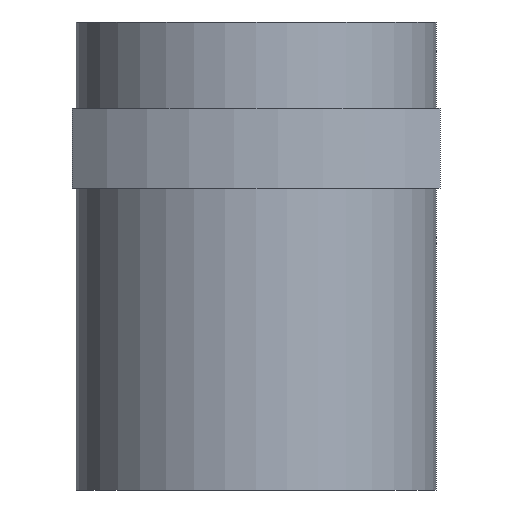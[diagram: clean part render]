
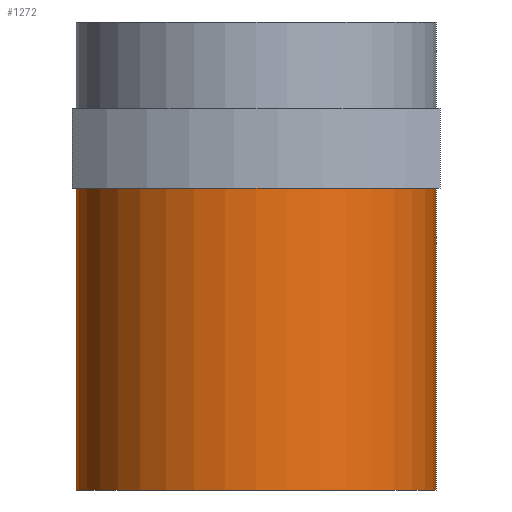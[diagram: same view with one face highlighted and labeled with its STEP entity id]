
A CAD part, front view. The second image highlights one B-rep face of the part: STEP entity #1272.
In plain terms, the highlighted cylindrical face has radius 45 mm (diameter 90 mm), a full revolution.
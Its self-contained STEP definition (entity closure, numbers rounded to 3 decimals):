
#21 = EDGE_CURVE('',#22,#24,#26,.T.);
#22 = VERTEX_POINT('',#23);
#23 = CARTESIAN_POINT('',(0.,-45.,-117.));
#24 = VERTEX_POINT('',#25);
#25 = CARTESIAN_POINT('',(45.,0.,-117.));
#26 = SURFACE_CURVE('',#27,(#32,#48),.PCURVE_S1.);
#27 = CIRCLE('',#28,45.);
#28 = AXIS2_PLACEMENT_3D('',#29,#30,#31);
#29 = CARTESIAN_POINT('',(0.,0.,-117.));
#30 = DIRECTION('',(0.,0.,1.));
#31 = DIRECTION('',(-1.,0.,0.));
#32 = PCURVE('',#33,#38);
#33 = PLANE('',#34);
#34 = AXIS2_PLACEMENT_3D('',#35,#36,#37);
#35 = CARTESIAN_POINT('',(0.,0.,-117.));
#36 = DIRECTION('',(0.,0.,-1.));
#37 = DIRECTION('',(-1.,0.,0.));
#38 = DEFINITIONAL_REPRESENTATION('',(#39),#47);
#39 = ( BOUNDED_CURVE() B_SPLINE_CURVE(2,(#40,#41,#42,#43,#44,#45,#46),
.UNSPECIFIED.,.T.,.F.) B_SPLINE_CURVE_WITH_KNOTS((1,2,2,2,2,1),(
    -2.094,0.,2.094,4.189,6.283,
8.378),.UNSPECIFIED.) CURVE() GEOMETRIC_REPRESENTATION_ITEM() 
RATIONAL_B_SPLINE_CURVE((1.,0.5,1.,0.5,1.,0.5,1.)) REPRESENTATION_ITEM(
  '') );
#40 = CARTESIAN_POINT('',(45.,0.));
#41 = CARTESIAN_POINT('',(45.,-77.942));
#42 = CARTESIAN_POINT('',(-22.5,-38.971));
#43 = CARTESIAN_POINT('',(-90.,0.));
#44 = CARTESIAN_POINT('',(-22.5,38.971));
#45 = CARTESIAN_POINT('',(45.,77.942));
#46 = CARTESIAN_POINT('',(45.,0.));
#47 = ( GEOMETRIC_REPRESENTATION_CONTEXT(2) 
PARAMETRIC_REPRESENTATION_CONTEXT() REPRESENTATION_CONTEXT('2D SPACE',''
  ) );
#48 = PCURVE('',#49,#54);
#49 = CYLINDRICAL_SURFACE('',#50,45.);
#50 = AXIS2_PLACEMENT_3D('',#51,#52,#53);
#51 = CARTESIAN_POINT('',(0.,0.,0.));
#52 = DIRECTION('',(0.,0.,-1.));
#53 = DIRECTION('',(-1.,0.,0.));
#54 = DEFINITIONAL_REPRESENTATION('',(#55),#59);
#55 = LINE('',#56,#57);
#56 = CARTESIAN_POINT('',(0.,117.));
#57 = VECTOR('',#58,1.);
#58 = DIRECTION('',(-1.,0.));
#59 = ( GEOMETRIC_REPRESENTATION_CONTEXT(2) 
PARAMETRIC_REPRESENTATION_CONTEXT() REPRESENTATION_CONTEXT('2D SPACE',''
  ) );
#61 = EDGE_CURVE('',#24,#22,#62,.T.);
#62 = SURFACE_CURVE('',#63,(#68,#79),.PCURVE_S1.);
#63 = CIRCLE('',#64,45.);
#64 = AXIS2_PLACEMENT_3D('',#65,#66,#67);
#65 = CARTESIAN_POINT('',(0.,0.,-117.));
#66 = DIRECTION('',(0.,0.,1.));
#67 = DIRECTION('',(-1.,0.,0.));
#68 = PCURVE('',#33,#69);
#69 = DEFINITIONAL_REPRESENTATION('',(#70),#78);
#70 = ( BOUNDED_CURVE() B_SPLINE_CURVE(2,(#71,#72,#73,#74,#75,#76,#77),
.UNSPECIFIED.,.T.,.F.) B_SPLINE_CURVE_WITH_KNOTS((1,2,2,2,2,1),(
    -2.094,0.,2.094,4.189,6.283,
8.378),.UNSPECIFIED.) CURVE() GEOMETRIC_REPRESENTATION_ITEM() 
RATIONAL_B_SPLINE_CURVE((1.,0.5,1.,0.5,1.,0.5,1.)) REPRESENTATION_ITEM(
  '') );
#71 = CARTESIAN_POINT('',(45.,0.));
#72 = CARTESIAN_POINT('',(45.,-77.942));
#73 = CARTESIAN_POINT('',(-22.5,-38.971));
#74 = CARTESIAN_POINT('',(-90.,0.));
#75 = CARTESIAN_POINT('',(-22.5,38.971));
#76 = CARTESIAN_POINT('',(45.,77.942));
#77 = CARTESIAN_POINT('',(45.,0.));
#78 = ( GEOMETRIC_REPRESENTATION_CONTEXT(2) 
PARAMETRIC_REPRESENTATION_CONTEXT() REPRESENTATION_CONTEXT('2D SPACE',''
  ) );
#79 = PCURVE('',#49,#80);
#80 = DEFINITIONAL_REPRESENTATION('',(#81),#85);
#81 = LINE('',#82,#83);
#82 = CARTESIAN_POINT('',(6.283,117.));
#83 = VECTOR('',#84,1.);
#84 = DIRECTION('',(-1.,0.));
#85 = ( GEOMETRIC_REPRESENTATION_CONTEXT(2) 
PARAMETRIC_REPRESENTATION_CONTEXT() REPRESENTATION_CONTEXT('2D SPACE',''
  ) );
#869 = PLANE('',#870);
#870 = AXIS2_PLACEMENT_3D('',#871,#872,#873);
#871 = CARTESIAN_POINT('',(0.,0.,-41.5));
#872 = DIRECTION('',(0.,0.,1.));
#873 = DIRECTION('',(1.,0.,-0.));
#1272 = ADVANCED_FACE('',(#1273),#49,.T.);
#1273 = FACE_BOUND('',#1274,.T.);
#1274 = EDGE_LOOP('',(#1275,#1276,#1299,#1321,#1322));
#1275 = ORIENTED_EDGE('',*,*,#21,.T.);
#1276 = ORIENTED_EDGE('',*,*,#1277,.T.);
#1277 = EDGE_CURVE('',#24,#1278,#1280,.T.);
#1278 = VERTEX_POINT('',#1279);
#1279 = CARTESIAN_POINT('',(45.,0.,-41.5));
#1280 = SEAM_CURVE('',#1281,(#1285,#1292),.PCURVE_S1.);
#1281 = LINE('',#1282,#1283);
#1282 = CARTESIAN_POINT('',(45.,0.,0.));
#1283 = VECTOR('',#1284,1.);
#1284 = DIRECTION('',(0.,0.,1.));
#1285 = PCURVE('',#49,#1286);
#1286 = DEFINITIONAL_REPRESENTATION('',(#1287),#1291);
#1287 = LINE('',#1288,#1289);
#1288 = CARTESIAN_POINT('',(-3.142,0.));
#1289 = VECTOR('',#1290,1.);
#1290 = DIRECTION('',(0.,-1.));
#1291 = ( GEOMETRIC_REPRESENTATION_CONTEXT(2) 
PARAMETRIC_REPRESENTATION_CONTEXT() REPRESENTATION_CONTEXT('2D SPACE',''
  ) );
#1292 = PCURVE('',#49,#1293);
#1293 = DEFINITIONAL_REPRESENTATION('',(#1294),#1298);
#1294 = LINE('',#1295,#1296);
#1295 = CARTESIAN_POINT('',(3.142,0.));
#1296 = VECTOR('',#1297,1.);
#1297 = DIRECTION('',(0.,-1.));
#1298 = ( GEOMETRIC_REPRESENTATION_CONTEXT(2) 
PARAMETRIC_REPRESENTATION_CONTEXT() REPRESENTATION_CONTEXT('2D SPACE',''
  ) );
#1299 = ORIENTED_EDGE('',*,*,#1300,.F.);
#1300 = EDGE_CURVE('',#1278,#1278,#1301,.T.);
#1301 = SURFACE_CURVE('',#1302,(#1307,#1314),.PCURVE_S1.);
#1302 = CIRCLE('',#1303,45.);
#1303 = AXIS2_PLACEMENT_3D('',#1304,#1305,#1306);
#1304 = CARTESIAN_POINT('',(0.,0.,-41.5));
#1305 = DIRECTION('',(0.,0.,1.));
#1306 = DIRECTION('',(-1.,0.,0.));
#1307 = PCURVE('',#49,#1308);
#1308 = DEFINITIONAL_REPRESENTATION('',(#1309),#1313);
#1309 = LINE('',#1310,#1311);
#1310 = CARTESIAN_POINT('',(6.283,41.5));
#1311 = VECTOR('',#1312,1.);
#1312 = DIRECTION('',(-1.,0.));
#1313 = ( GEOMETRIC_REPRESENTATION_CONTEXT(2) 
PARAMETRIC_REPRESENTATION_CONTEXT() REPRESENTATION_CONTEXT('2D SPACE',''
  ) );
#1314 = PCURVE('',#869,#1315);
#1315 = DEFINITIONAL_REPRESENTATION('',(#1316),#1320);
#1316 = CIRCLE('',#1317,45.);
#1317 = AXIS2_PLACEMENT_2D('',#1318,#1319);
#1318 = CARTESIAN_POINT('',(0.,0.));
#1319 = DIRECTION('',(-1.,0.));
#1320 = ( GEOMETRIC_REPRESENTATION_CONTEXT(2) 
PARAMETRIC_REPRESENTATION_CONTEXT() REPRESENTATION_CONTEXT('2D SPACE',''
  ) );
#1321 = ORIENTED_EDGE('',*,*,#1277,.F.);
#1322 = ORIENTED_EDGE('',*,*,#61,.T.);
